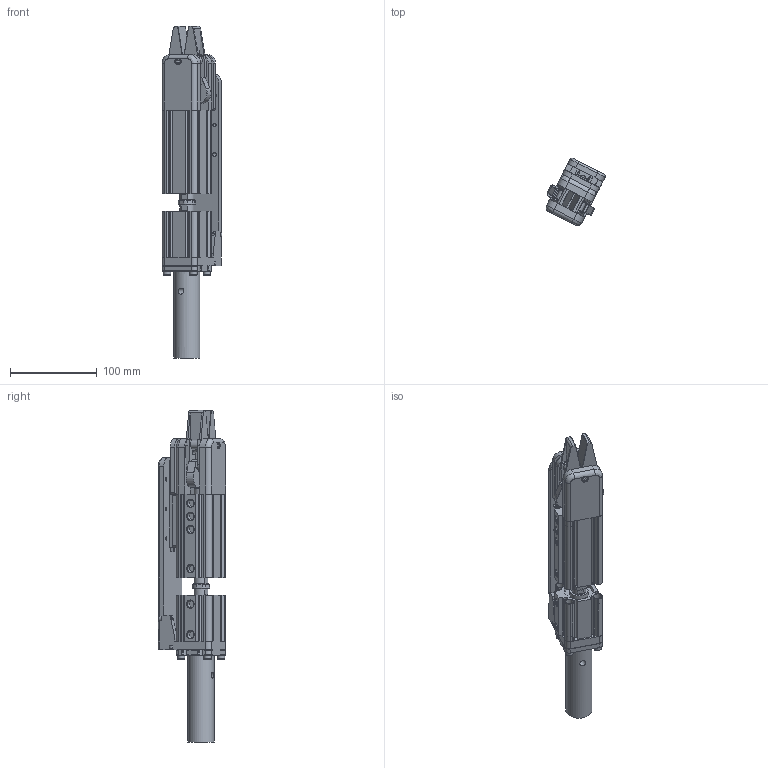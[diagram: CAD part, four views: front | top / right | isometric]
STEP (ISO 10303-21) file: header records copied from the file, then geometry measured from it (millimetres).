
FILE_DESCRIPTION(/* description */ (''),/* implementation_level */ '2;1');
FILE_NAME(/* name */ '8Y00418-GRP32C-3020--30.stp',/* time_stamp */ '2023-02-22T15:20:43+08:00',/* author */ (''),/* organization */ (''),/* preprocessor_version */ 'ST-DEVELOPER v16',/* originating_system */ 'SIEMENS PLM Software NX 10.0',/* authorisation */ '');
FILE_SCHEMA (('AUTOMOTIVE_DESIGN { 1 0 10303 214 3 1 1 1 }'));
Length unit declared in the file: millimetre
Products named in the file (1): _model52
Bounding box: 68.82 x 77.88 x 381.8 mm (x, y, z)
Volume: 506105.8 mm3; surface area: 190374.8 mm2
Topology: 14 solids, 37 shells, 1287 faces, 3171 edges, 2020 vertices
Faces by surface type: plane 754, cylinder 348, cone 146, torus 22, sphere 14, bspline 3
Full cylindrical faces by diameter (mm): 2.5 x2, 3.3 x6, 4 x12, 4.1 x1, 4.2 x16, 4.5 x8, 4.917 x8, 5 x8, 5.2 x12, 5.5 x8, 6 x12, 6.5 x1, 6.647 x3, 6.8 x1, 7 x14, 8 x7, 8.5 x9, 8.566 x6, 8.6 x1, 9 x16, 10 x6, 13 x2, 13.5 x1, 14 x1, 15 x2, 16 x4, 17 x12, 20 x3, 21 x3, 30 x1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
Entity records: 44652 total; most frequent: CARTESIAN_POINT 6884, DIRECTION 6160, ORIENTED_EDGE 5274, EDGE_CURVE 2637, AXIS2_PLACEMENT_3D 2304, VERTEX_POINT 1862, EDGE_LOOP 1792, LINE 1552
